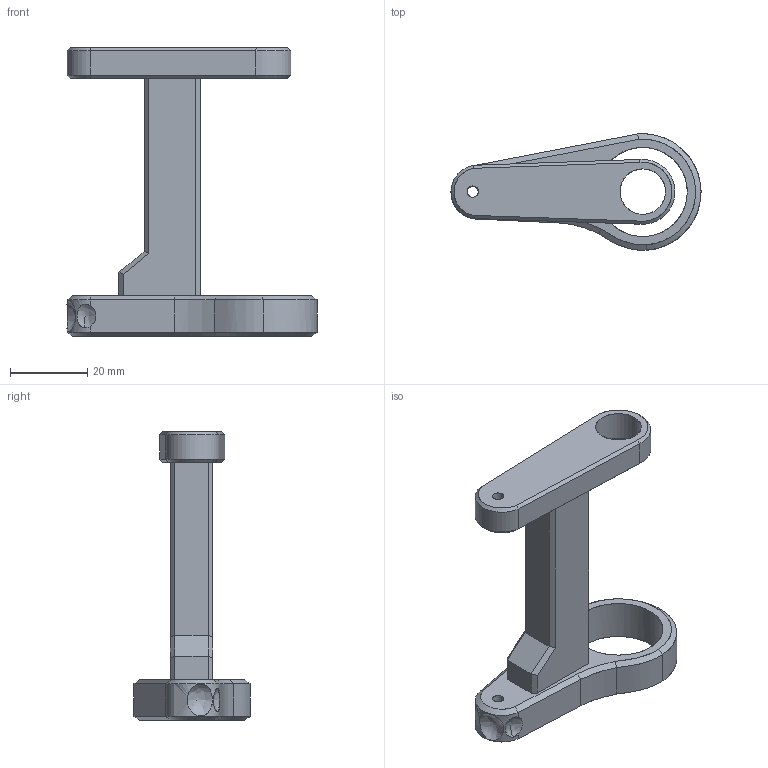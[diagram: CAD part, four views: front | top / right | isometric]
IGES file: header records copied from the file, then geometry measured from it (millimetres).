
Global section: file name: E:\M1337\M1337 Remodel\Metric\Clutch\IGES Files\Sight Metric.igs; native system: NX V2007; preprocessor: SIEMENS PLM Software NX 2027; date: 20260822.075103; units: millimetre
Bounding box: 64.79 x 30.17 x 74.71 mm (x, y, z)
Surface area: 9294.7 mm2 (no closed solid volume)
Topology: 0 solids, 0 shells, 58 faces, 433 edges, 496 vertices
Faces by surface type: bspline 58
